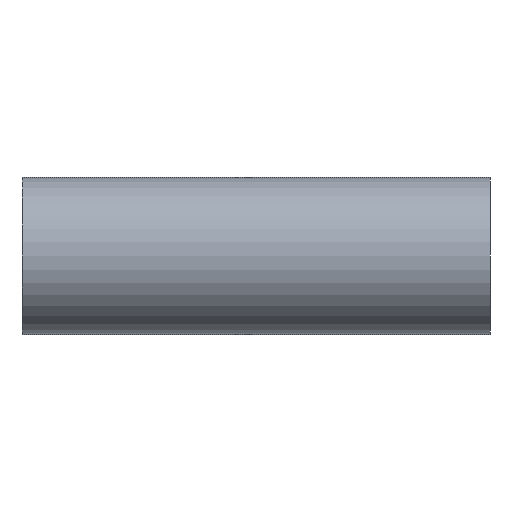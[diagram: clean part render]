
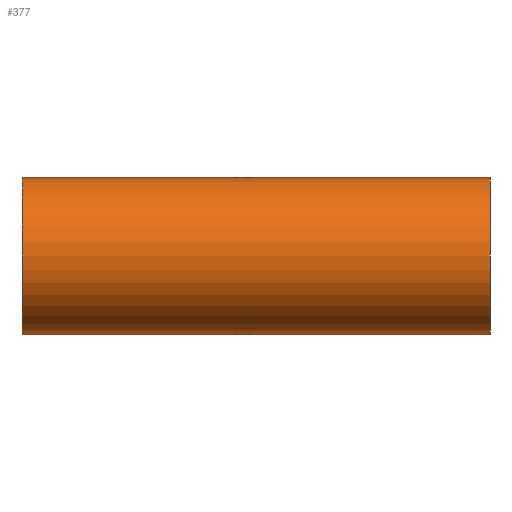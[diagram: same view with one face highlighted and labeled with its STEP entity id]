
A CAD part, front view. The second image highlights one B-rep face of the part: STEP entity #377.
In plain terms, the highlighted cylindrical face has radius 25.4 mm (diameter 50.8 mm), a partial arc.
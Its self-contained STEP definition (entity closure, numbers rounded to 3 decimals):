
#6 = DIRECTION ( 'NONE',  ( 0., 0., 1. ) ) ;
#11 = CIRCLE ( 'NONE', #217, 25.4 ) ;
#23 = CARTESIAN_POINT ( 'NONE',  ( 147.542, 0., 25.4 ) ) ;
#25 = VECTOR ( 'NONE', #488, 1000. ) ;
#48 = ORIENTED_EDGE ( 'NONE', *, *, #310, .T. ) ;
#70 = CYLINDRICAL_SURFACE ( 'NONE', #437, 25.4 ) ;
#109 = DIRECTION ( 'NONE',  ( 0., 0., 1. ) ) ;
#131 = DIRECTION ( 'NONE',  ( -1., 0., 0. ) ) ;
#135 = CARTESIAN_POINT ( 'NONE',  ( -75.7, 0., 0. ) ) ;
#139 = ORIENTED_EDGE ( 'NONE', *, *, #279, .T. ) ;
#162 = VERTEX_POINT ( 'NONE', #503 ) ;
#167 = CARTESIAN_POINT ( 'NONE',  ( -75.7, 0., 25.4 ) ) ;
#210 = VERTEX_POINT ( 'NONE', #167 ) ;
#217 = AXIS2_PLACEMENT_3D ( 'NONE', #502, #470, #6 ) ;
#229 = EDGE_CURVE ( 'NONE', #268, #162, #468, .T. ) ;
#234 = CARTESIAN_POINT ( 'NONE',  ( 147.542, 0., -25.4 ) ) ;
#236 = DIRECTION ( 'NONE',  ( 0., 0., 1. ) ) ;
#246 = CARTESIAN_POINT ( 'NONE',  ( 147.542, 0., 0. ) ) ;
#268 = VERTEX_POINT ( 'NONE', #304 ) ;
#272 = DIRECTION ( 'NONE',  ( -1., 0., 0. ) ) ;
#279 = EDGE_CURVE ( 'NONE', #268, #410, #11, .T. ) ;
#303 = FACE_OUTER_BOUND ( 'NONE', #411, .T. ) ;
#304 = CARTESIAN_POINT ( 'NONE',  ( 75.7, 0., -25.4 ) ) ;
#310 = EDGE_CURVE ( 'NONE', #210, #162, #441, .T. ) ;
#320 = DIRECTION ( 'NONE',  ( 1., 0., 0. ) ) ;
#322 = AXIS2_PLACEMENT_3D ( 'NONE', #135, #320, #109 ) ;
#377 = ADVANCED_FACE ( 'NONE', ( #303 ), #70, .T. ) ;
#404 = ORIENTED_EDGE ( 'NONE', *, *, #485, .T. ) ;
#410 = VERTEX_POINT ( 'NONE', #450 ) ;
#411 = EDGE_LOOP ( 'NONE', ( #474, #139, #404, #48 ) ) ;
#437 = AXIS2_PLACEMENT_3D ( 'NONE', #246, #131, #236 ) ;
#441 = CIRCLE ( 'NONE', #322, 25.4 ) ;
#450 = CARTESIAN_POINT ( 'NONE',  ( 75.7, 0., 25.4 ) ) ;
#468 = LINE ( 'NONE', #234, #25 ) ;
#470 = DIRECTION ( 'NONE',  ( -1., 0., 0. ) ) ;
#474 = ORIENTED_EDGE ( 'NONE', *, *, #229, .F. ) ;
#485 = EDGE_CURVE ( 'NONE', #410, #210, #508, .T. ) ;
#488 = DIRECTION ( 'NONE',  ( -1., 0., 0. ) ) ;
#496 = VECTOR ( 'NONE', #272, 1000. ) ;
#502 = CARTESIAN_POINT ( 'NONE',  ( 75.7, 0., 0. ) ) ;
#503 = CARTESIAN_POINT ( 'NONE',  ( -75.7, 0., -25.4 ) ) ;
#508 = LINE ( 'NONE', #23, #496 ) ;
